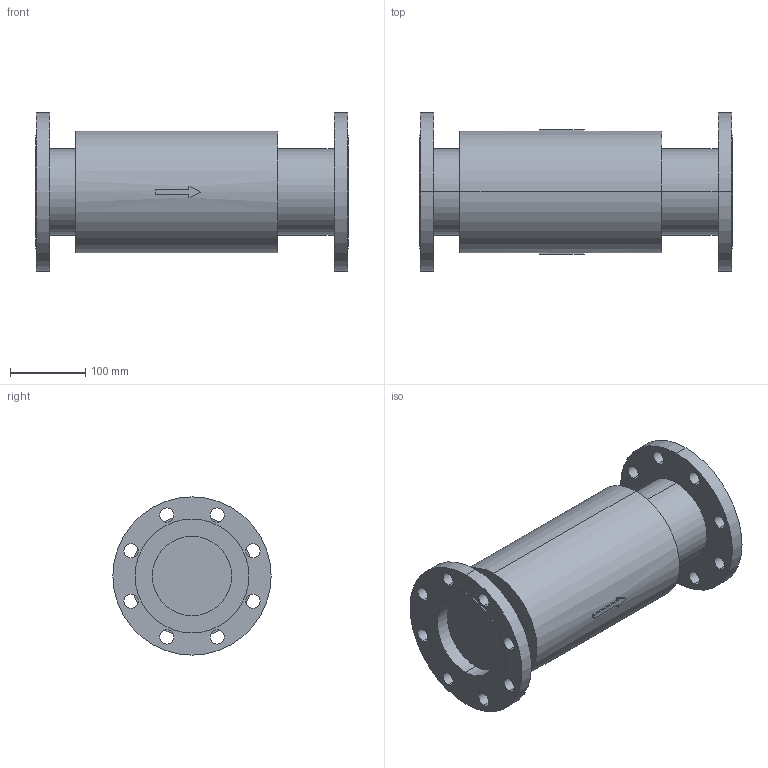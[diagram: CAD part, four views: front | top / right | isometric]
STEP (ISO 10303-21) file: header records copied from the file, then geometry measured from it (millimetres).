
FILE_DESCRIPTION( (''), '2;1');
FILE_NAME ('PC1027.10420.EB-1J　100A_19339.stp','2025-07-29T12:55:16',(''),(''),'spGate 20.6.3 (****-****-****-****)','','');
FILE_SCHEMA (('AUTOMOTIVE_DESIGN'));
Length unit declared in the file: millimetre
Bounding box: 415 x 210 x 210 mm (x, y, z)
Volume: 7488546.3 mm3; surface area: 359743.7 mm2
Topology: 1 solids, 1 shells, 76 faces, 194 edges, 130 vertices
Faces by surface type: cylinder 50, plane 26
Entity records: 3917 total; most frequent: CARTESIAN_POINT 458, DIRECTION 400, ORIENTED_EDGE 388, COLOUR_RGB 271, PRESENTATION_STYLE_ASSIGNMENT 271, STYLED_ITEM 271, EDGE_CURVE 194, DRAUGHTING_PRE_DEFINED_CURVE_FONT 194
